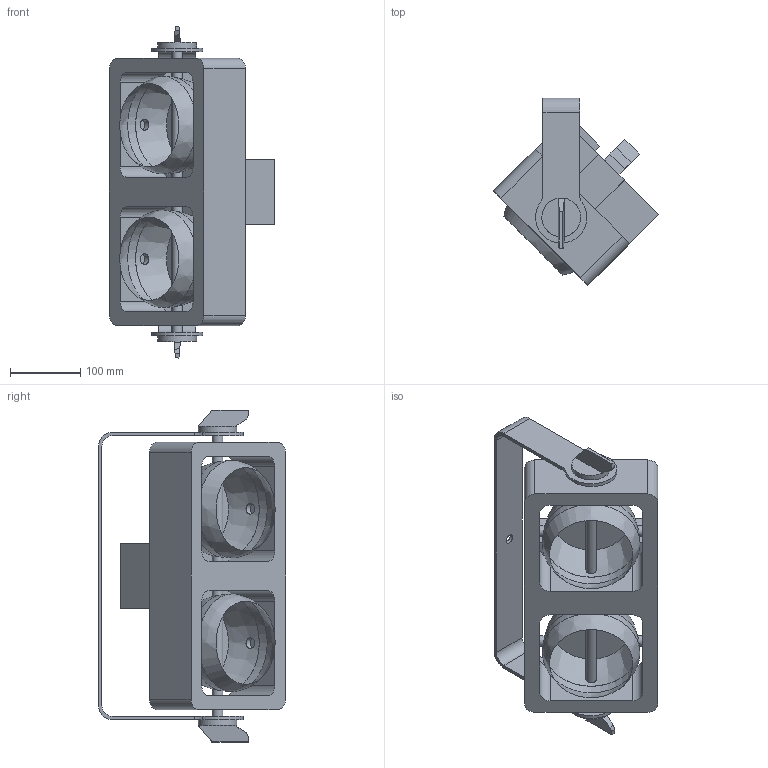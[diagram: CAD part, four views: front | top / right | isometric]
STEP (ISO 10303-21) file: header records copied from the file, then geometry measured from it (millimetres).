
FILE_DESCRIPTION(/* description */ (''),/* implementation_level */ '2;1');
FILE_NAME(/* name */ 'D:/dgooch/Documents/CADENG/PRO/Strike Array 2/30/3D/Strike Array 2 v10.step',/* time_stamp */ '2020-01-20T11:09:51-05:00',/* author */ (''),/* organization */ (''),/* preprocessor_version */ 'ST-DEVELOPER v18',/* originating_system */ 'Autodesk Translation Framework v8.12.0.6',/* authorisation */ '');
FILE_SCHEMA (('AUTOMOTIVE_DESIGN { 1 0 10303 214 3 1 1 }'));
Length unit declared in the file: millimetre
Products named in the file (3): Strike Array 2; Bracket; Head
Assembly tree (2 placements, depth 2):
  Strike Array 2
    Bracket
    Head
Bounding box: 235.08 x 266.02 x 472.17 mm (x, y, z)
Volume: 6489425.6 mm3; surface area: 581132.3 mm2
Topology: 2 solids, 2 shells, 124 faces, 356 edges, 238 vertices
Faces by surface type: plane 78, cylinder 36, bspline 6, cone 4
Full cylindrical faces by diameter (mm): 13 x2, 15 x10, 55 x2
Entity records: 5119 total; most frequent: CARTESIAN_POINT 1723, ORIENTED_EDGE 704, DIRECTION 668, EDGE_CURVE 352, VERTEX_POINT 238, LINE 234, VECTOR 234, AXIS2_PLACEMENT_3D 217
